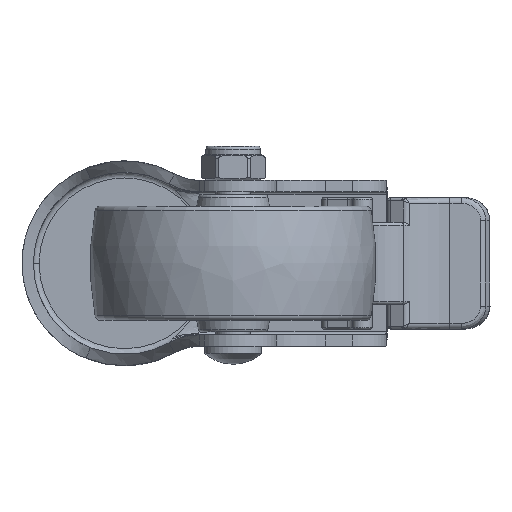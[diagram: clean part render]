
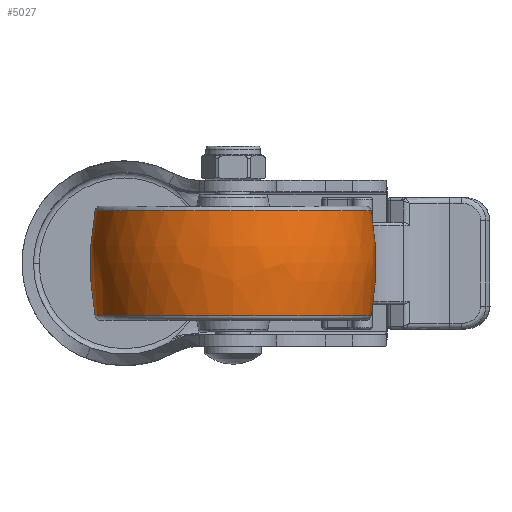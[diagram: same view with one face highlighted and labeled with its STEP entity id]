
A CAD part, front view. The second image highlights one B-rep face of the part: STEP entity #5027.
In plain terms, the highlighted free-form (B-spline) face has degree [3, 3] with [7, 4] control points.
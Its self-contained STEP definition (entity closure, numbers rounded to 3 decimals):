
#4653=CARTESIAN_POINT('',(0.,-25.,0.));
#4654=DIRECTION('',(0.,0.,1.));
#4655=DIRECTION('',(0.184,0.983,0.));
#4656=AXIS2_PLACEMENT_3D('',#4653,#4654,#4655);
#4658=CARTESIAN_POINT('',(0.,25.,0.));
#4659=DIRECTION('',(0.,0.,-1.));
#4660=DIRECTION('',(0.184,-0.983,0.));
#4661=AXIS2_PLACEMENT_3D('',#4658,#4659,#4660);
#4663=CARTESIAN_POINT('',(9.184,0.,0.));
#4664=DIRECTION('',(-1.,0.,0.));
#4665=DIRECTION('',(0.,1.,0.));
#4666=AXIS2_PLACEMENT_3D('',#4663,#4664,#4665);
#4688=CARTESIAN_POINT('',(-9.184,0.,0.));
#4689=DIRECTION('',(-1.,0.,0.));
#4690=DIRECTION('',(0.,1.,0.));
#4691=AXIS2_PLACEMENT_3D('',#4688,#4689,#4690);
#4828=CARTESIAN_POINT('',(9.184,24.149,0.));
#4830=VERTEX_POINT('',#4828);
#4831=CARTESIAN_POINT('',(-9.184,24.149,0.));
#4832=VERTEX_POINT('',#4831);
#4836=CARTESIAN_POINT('',(9.184,-24.149,0.));
#4838=VERTEX_POINT('',#4836);
#4839=CARTESIAN_POINT('',(-9.184,-24.149,0.));
#4840=VERTEX_POINT('',#4839);
#4989=CARTESIAN_POINT('',(-9.547,-24.033,
1.512));
#4990=CARTESIAN_POINT('',(-3.222,-25.26,
1.589));
#4991=CARTESIAN_POINT('',(3.222,-25.26,1.589));
#4992=CARTESIAN_POINT('',(9.547,-24.033,1.512));
#4993=CARTESIAN_POINT('',(-9.547,-24.963,
-13.278));
#4994=CARTESIAN_POINT('',(-3.222,-26.238,
-13.956));
#4995=CARTESIAN_POINT('',(3.222,-26.238,
-13.956));
#4996=CARTESIAN_POINT('',(9.547,-24.963,
-13.278));
#4997=CARTESIAN_POINT('',(-9.547,-14.819,
-24.08));
#4998=CARTESIAN_POINT('',(-3.222,-15.576,
-25.31));
#4999=CARTESIAN_POINT('',(3.222,-15.576,
-25.31));
#5000=CARTESIAN_POINT('',(9.547,-14.819,
-24.08));
#5001=CARTESIAN_POINT('',(-9.547,0.,-24.08));
#5002=CARTESIAN_POINT('',(-3.222,0.,-25.31));
#5003=CARTESIAN_POINT('',(3.222,0.,-25.31));
#5004=CARTESIAN_POINT('',(9.547,0.,-24.08));
#5005=CARTESIAN_POINT('',(-9.547,14.819,
-24.08));
#5006=CARTESIAN_POINT('',(-3.222,15.576,
-25.31));
#5007=CARTESIAN_POINT('',(3.222,15.576,-25.31));
#5008=CARTESIAN_POINT('',(9.547,14.819,-24.08));
#5009=CARTESIAN_POINT('',(-9.547,24.963,
-13.278));
#5010=CARTESIAN_POINT('',(-3.222,26.238,
-13.956));
#5011=CARTESIAN_POINT('',(3.222,26.238,-13.956));
#5012=CARTESIAN_POINT('',(9.547,24.963,-13.278));
#5013=CARTESIAN_POINT('',(-9.547,24.033,1.512));
#5014=CARTESIAN_POINT('',(-3.222,25.26,1.589));
#5015=CARTESIAN_POINT('',(3.222,25.26,1.589));
#5016=CARTESIAN_POINT('',(9.547,24.033,1.512));
#5017=(BOUNDED_SURFACE()B_SPLINE_SURFACE(3,3,((#4989,#4990,#4991,#4992),(#4993,
#4994,#4995,#4996),(#4997,#4998,#4999,#5000),(#5001,#5002,#5003,#5004),(#5005,
#5006,#5007,#5008),(#5009,#5010,#5011,#5012),(#5013,#5014,#5015,#5016)),
.UNSPECIFIED.,.F.,.F.,.F.)B_SPLINE_SURFACE_WITH_KNOTS((4,3,4),(4,4),(0.,1.,
2.),(0.,1.),.UNSPECIFIED.)GEOMETRIC_REPRESENTATION_ITEM()RATIONAL_B_SPLINE_SURFACE(((1.198,1.184,1.184,1.198),(
0.946,0.935,0.935,0.946),(
0.946,0.935,0.935,0.946),(
1.198,1.184,1.184,1.198),(
0.946,0.935,0.935,0.946),(
0.946,0.935,0.935,0.946),(
1.198,1.184,1.184,1.198)))REPRESENTATION_ITEM('')SURFACE());
#5019=ORIENTED_EDGE('',*,*,#5018,.T.);
#5021=ORIENTED_EDGE('',*,*,#5020,.T.);
#5023=ORIENTED_EDGE('',*,*,#5022,.F.);
#5024=ORIENTED_EDGE('',*,*,#4982,.F.);
#5025=EDGE_LOOP('',(#5019,#5021,#5023,#5024));
#5026=FACE_OUTER_BOUND('',#5025,.F.);
#4657=CIRCLE('',#4656,50.);
#4662=CIRCLE('',#4661,50.);
#4667=CIRCLE('',#4666,24.149);
#4692=CIRCLE('',#4691,24.149);
#4982=EDGE_CURVE('',#4830,#4838,#4667,.T.);
#5018=EDGE_CURVE('',#4830,#4832,#4657,.T.);
#5020=EDGE_CURVE('',#4832,#4840,#4692,.T.);
#5022=EDGE_CURVE('',#4838,#4840,#4662,.T.);
#5027=ADVANCED_FACE('',(#5026),#5017,.T.);
